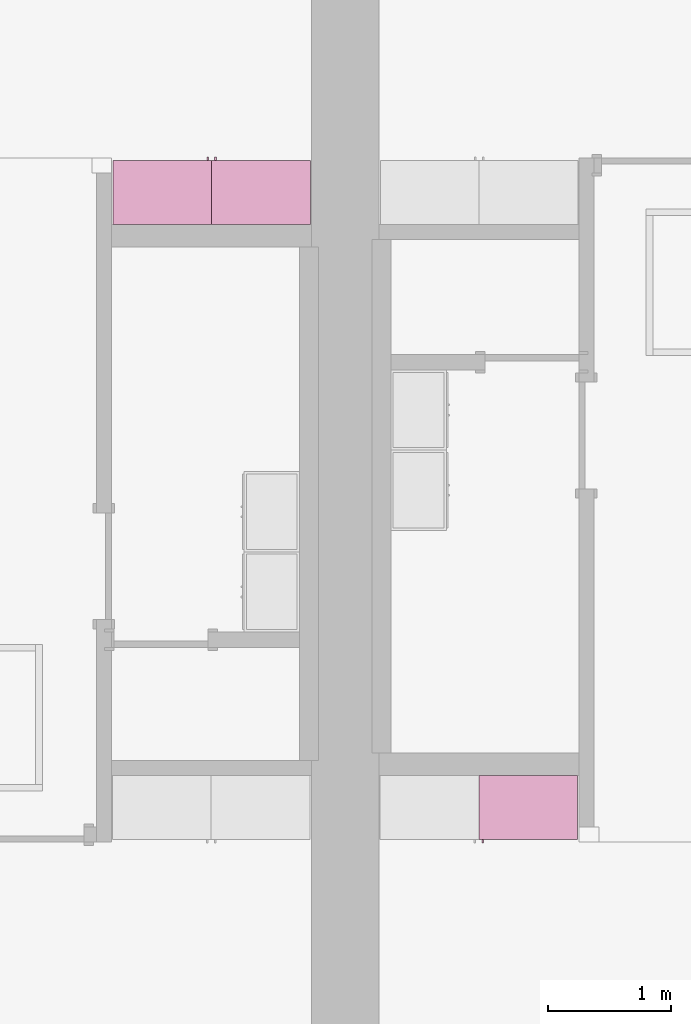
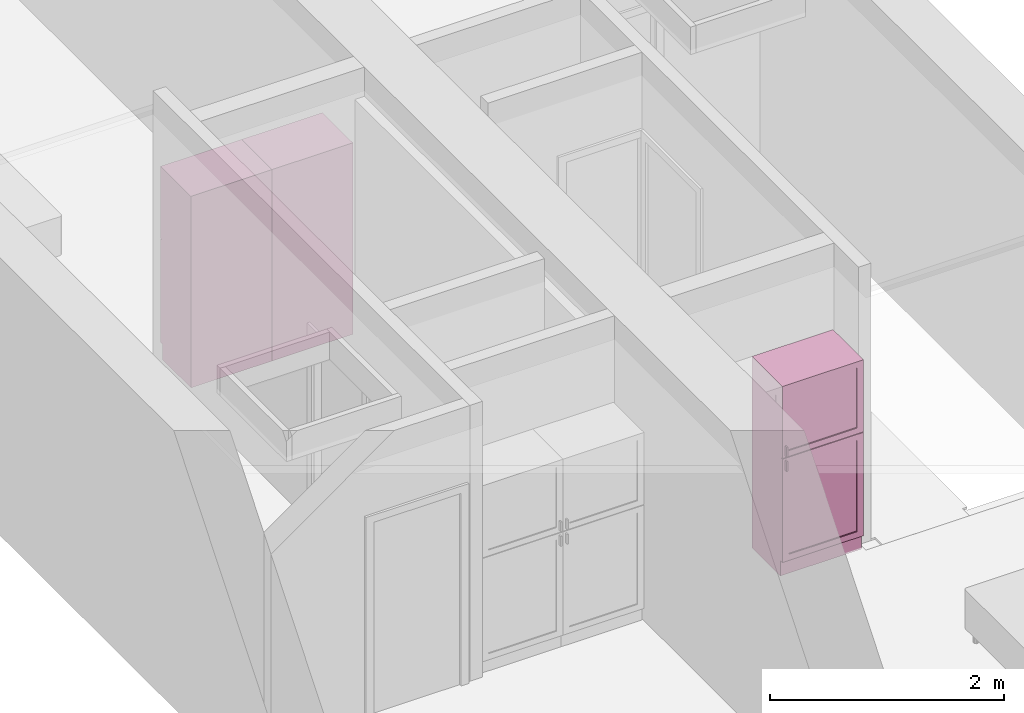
# One storey, part 15 of 16: 3 furnishings, 3 openings.
"""IFC4 building model written with IfcOpenShell, lengths in metres."""

from ifc_helpers import new_model, entity, si_unit, converted_unit, frame, origin, origin_2d_with_axis, place, context, project, spatial, rectangle, extrude, face_set, surface_model, source, transform, mapped, type_object, type_shapes, element, save


model = new_model("IFC4")

# Units and contexts
model_context = context("Model", 3, precision=1e-09, world=origin())
plan_context = context("Plan", 3, precision=1e-09, world=origin())
ifc_project = project(units=[si_unit("LENGTHUNIT", "METRE"), si_unit("AREAUNIT", "SQUARE_METRE"), si_unit("VOLUMEUNIT", "CUBIC_METRE"), converted_unit("PLANEANGLEUNIT", "DEGREE", entity("IfcRatioMeasure", 0.01745329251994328), si_unit("PLANEANGLEUNIT", "RADIAN"), dimensions=[0, 0, 0, 0, 0, 0, 0]), si_unit("TIMEUNIT", "SECOND")], contexts=[model_context, plan_context])

# Site, building, storey, space
site_placement = place(None, origin())
site = spatial("IfcSite", under=ifc_project, at=site_placement, Name="Default", CompositionType="ELEMENT")
building_placement = place(site_placement, origin())
building = spatial("IfcBuilding", under=site, at=building_placement, CompositionType="ELEMENT")
storey_placement = place(building_placement, frame((0.0, 0.0, 3.100000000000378)))
storey = spatial("IfcBuildingStorey", under=building, at=storey_placement, Name="Level 2", CompositionType="ELEMENT", Elevation=3.100000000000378)
space_1_placement = place(storey_placement, origin())
space_1 = spatial("IfcSpace", under=storey, at=space_1_placement, Name="A203", CompositionType="ELEMENT", PredefinedType="SPACE")

# Furnishing, opening
furniture_type_1 = type_object("IfcFurnitureType", Name="800 mm", AssemblyPlace="NOTDEFINED")
shared_shape_1 = source(origin(), model_context, "Body", "SurfaceModel", [
    surface_model("IfcFaceBasedSurfaceModel", [(0.7999999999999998, 0.5009500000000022, 0.1615874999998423), (0.7999999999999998, 0.5009500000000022, 2.0), (0.0, 0.5009499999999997, 2.0), (0.0, 0.5009499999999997, 0.1615874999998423), (0.7809499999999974, 0.5009500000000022, 1.980949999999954), (0.7809499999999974, 0.5009500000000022, 0.1806374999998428), (0.01904999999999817, 0.5009499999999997, 0.1806374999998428), (0.01904999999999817, 0.5009499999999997, 1.980949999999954), (0.0, 0.0, 2.0), (0.0, 0.0, 0.0), (0.8000000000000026, 0.0, 0.0), (0.8000000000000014, 0.0, 2.0), (0.780949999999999, 0.0, 1.980949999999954), (0.780949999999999, 0.0, 0.1806374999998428), (0.0190499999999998, 0.0, 0.1806374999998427), (0.0190499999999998, 0.0, 1.980949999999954), (0.8000000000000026, 0.4850000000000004, 0.0), (0.7999999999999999, 0.4850000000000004, 0.1615874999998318), (0.0, 0.4850000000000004, 0.0), (0.0, 0.4850000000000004, 0.1615874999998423), (0.7745999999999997, 0.5454000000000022, 1.371548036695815), (0.7620677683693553, 0.5454000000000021, 1.371548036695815), (0.7620677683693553, 0.5454000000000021, 1.269948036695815), (0.7745999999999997, 0.5454000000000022, 1.269948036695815), (0.7745999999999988, 0.5454000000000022, 1.219148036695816), (0.7620677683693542, 0.5454000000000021, 1.219148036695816), (0.7620677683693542, 0.5454000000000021, 1.117548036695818), (0.7745999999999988, 0.5454000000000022, 1.117548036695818), (0.7745999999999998, 0.5200000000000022, 1.371548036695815), (0.7620677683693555, 0.5200000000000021, 1.371548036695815), (0.7620677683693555, 0.5200000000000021, 1.269948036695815), (0.7745999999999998, 0.5200000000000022, 1.269948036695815), (0.7745999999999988, 0.5200000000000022, 1.219148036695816), (0.7620677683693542, 0.5200000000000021, 1.219148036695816), (0.7620677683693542, 0.5200000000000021, 1.117548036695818), (0.7745999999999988, 0.5200000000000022, 1.117548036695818), (0.7364999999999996, 0.5073000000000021, 1.936499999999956), (0.06350000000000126, 0.5072999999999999, 1.936499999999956), (0.06350000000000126, 0.5072999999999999, 1.308048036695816), (0.7364999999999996, 0.5073000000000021, 1.308048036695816), (0.736499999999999, 0.5073000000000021, 1.181048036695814), (0.06350000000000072, 0.5072999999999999, 1.181048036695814), (0.06350000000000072, 0.5072999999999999, 0.2250874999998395), (0.736499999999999, 0.5073000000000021, 0.2250874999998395), (0.7364999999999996, 0.5009500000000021, 1.936499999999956), (0.06350000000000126, 0.5009499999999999, 1.936499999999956), (0.06350000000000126, 0.5009499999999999, 1.308048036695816), (0.7364999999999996, 0.5009500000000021, 1.308048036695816), (0.736499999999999, 0.5009500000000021, 1.181048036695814), (0.06350000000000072, 0.5009499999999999, 1.181048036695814), (0.06350000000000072, 0.5009499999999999, 0.2250874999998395), (0.736499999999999, 0.5009500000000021, 0.2250874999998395), (0.8, 0.5200000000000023, 2.0), (0.0, 0.5199999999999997, 2.0), (0.0, 0.5199999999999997, 1.247723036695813), (0.8, 0.5200000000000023, 1.247723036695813), (0.7364999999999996, 0.5200000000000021, 1.936499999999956), (0.7364999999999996, 0.5200000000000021, 1.308048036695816), (0.0635000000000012, 0.5199999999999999, 1.308048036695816), (0.0635000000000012, 0.5199999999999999, 1.936499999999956), (0.7999999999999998, 0.5200000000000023, 0.1615874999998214), (0.7999999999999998, 0.5200000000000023, 1.241373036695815), (0.0, 0.5199999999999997, 1.241373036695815), (0.0, 0.5199999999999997, 0.1615874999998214), (0.736499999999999, 0.5200000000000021, 1.181048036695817), (0.736499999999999, 0.5200000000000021, 0.2250874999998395), (0.06350000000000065, 0.5199999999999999, 0.2250874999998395), (0.06350000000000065, 0.5199999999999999, 1.181048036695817), (0.8000000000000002, 0.5009500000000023, 2.0), (0.0, 0.5009499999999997, 2.0), (0.0, 0.5009499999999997, 1.247723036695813), (0.8, 0.5009500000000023, 1.247723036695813), (0.7364999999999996, 0.5009500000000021, 1.936499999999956), (0.7364999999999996, 0.5009500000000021, 1.308048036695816), (0.06350000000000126, 0.5009499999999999, 1.308048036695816), (0.06350000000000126, 0.5009499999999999, 1.936499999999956), (0.7999999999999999, 0.5009500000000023, 0.1615874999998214), (0.7999999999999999, 0.5009500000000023, 1.241373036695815), (0.0, 0.5009499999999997, 1.241373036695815), (0.0, 0.5009499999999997, 0.1615874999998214), (0.736499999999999, 0.5009500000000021, 1.181048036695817), (0.736499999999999, 0.5009500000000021, 0.2250874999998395), (0.06350000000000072, 0.5009499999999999, 0.2250874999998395), (0.06350000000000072, 0.5009499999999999, 1.181048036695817), (0.7809499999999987, 0.01905000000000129, 1.980949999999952), (0.0190499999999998, 0.01905000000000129, 1.980949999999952), (0.0190499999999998, 0.01905000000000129, 0.1806374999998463), (0.7809499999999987, 0.01905000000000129, 0.1806374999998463), (0.7809499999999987, 0.0, 1.980949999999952), (0.0190499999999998, 0.0, 1.980949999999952), (0.01904999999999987, 0.0, 0.1806374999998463), (0.7809499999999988, 0.0, 0.1806374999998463)], [face_set([[[0, 1, 2, 3], [4, 5, 6, 7]], [[8, 9, 10, 11], [12, 13, 14, 15]], [[1, 11, 10, 16, 17, 0]], [[2, 1, 11, 8]], [[3, 2, 8, 9, 18, 19]], [[0, 17, 19, 3]], [[5, 4, 12, 13]], [[6, 5, 13, 14]], [[7, 6, 14, 15]], [[4, 12, 15, 7]], [[10, 9, 18, 16]], [[18, 16, 17, 19]]]), face_set([[[20, 21, 22, 23]], [[24, 25, 26, 27]], [[28, 29, 30, 31]], [[32, 33, 34, 35]], [[21, 20, 28, 29]], [[22, 30, 29, 21]], [[23, 31, 30, 22]], [[20, 23, 31, 28]], [[25, 24, 32, 33]], [[26, 34, 33, 25]], [[27, 35, 34, 26]], [[24, 27, 35, 32]]]), face_set([[[36, 37, 38, 39]], [[40, 41, 42, 43]], [[44, 45, 46, 47]], [[48, 49, 50, 51]], [[37, 36, 44, 45]], [[38, 37, 45, 46]], [[39, 47, 46, 38]], [[36, 44, 47, 39]], [[41, 40, 48, 49]], [[42, 41, 49, 50]], [[43, 51, 50, 42]], [[40, 48, 51, 43]]]), face_set([[[52, 53, 54, 55], [56, 57, 58, 59]], [[60, 61, 62, 63], [64, 65, 66, 67]], [[68, 69, 70, 71], [72, 73, 74, 75]], [[76, 77, 78, 79], [80, 81, 82, 83]], [[53, 52, 68, 69]], [[54, 70, 69, 53]], [[55, 71, 70, 54]], [[52, 68, 71, 55]], [[61, 77, 76, 60]], [[62, 61, 77, 78]], [[63, 79, 78, 62]], [[60, 76, 79, 63]], [[57, 56, 72, 73]], [[58, 57, 73, 74]], [[59, 75, 74, 58]], [[56, 72, 75, 59]], [[65, 64, 80, 81]], [[66, 65, 81, 82]], [[67, 83, 82, 66]], [[64, 80, 83, 67]]]), face_set([[[84, 85, 86, 87]], [[88, 89, 90, 91]], [[85, 84, 88, 89]], [[86, 90, 89, 85]], [[87, 91, 90, 86]], [[84, 88, 91, 87]]])]),
])
type_shapes(furniture_type_1, [shared_shape_1])
furnishing_1_placement = place(space_1_placement, frame((6.282999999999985, -11.13400000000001, 0.0), z_axis=(0.0, 0.0, 1.0), x_axis=(-1.0, 0.0, 0.0)))
furnishing_1 = element("IfcFurnishingElement", 1, at=furnishing_1_placement, inside=space_1, type_object=furniture_type_1, Name="M_Tall Cabinet-Single Door(2):800 mm:800 mm", ObjectType="800 mm", context=model_context, shape_type="MappedRepresentation", body=[
    mapped(shared_shape_1, transform((0.0, 0.0, 0.0), scale=1.0)),
])
opening_1_placement = place(space_1_placement, frame((6.282999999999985, -11.13400000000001, 0.0), z_axis=(0.0, 0.0, 1.0), x_axis=(-1.0, 0.0, 0.0)))
element("IfcOpeningElement", 2, at=opening_1_placement, cuts=furnishing_1, Name="M_Tall Cabinet-Single Door(2):800 mm:800 mm:1", ObjectType="Opening", context=model_context, shape_type="SweptSolid", body=[
    extrude(rectangle(XDim=1.800312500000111, YDim=0.7618999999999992, at=origin_2d_with_axis()), frame((-0.01873770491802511, 0.0, -2.01920625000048), z_axis=(0.0, -1.0, 0.0), x_axis=(0.0, 0.0, -1.0)), (0.0, 0.0, 1.0), 0.5009499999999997),
])

# Space
space_2_placement = place(storey_placement, origin())
space_2 = spatial("IfcSpace", under=storey, at=space_2_placement, Name="B203", CompositionType="ELEMENT", PredefinedType="SPACE")

# Furnishing, opening
furniture_type_2 = type_object("IfcFurnitureType", Name="800 mm", AssemblyPlace="NOTDEFINED")
shared_shape_2 = source(origin(), model_context, "Body", "SurfaceModel", [
    surface_model("IfcFaceBasedSurfaceModel", [(0.7999999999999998, 0.04444999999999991, 0.1615874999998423), (0.0, 0.04445000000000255, 0.1615874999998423), (0.0, 0.04445000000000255, 2.0), (0.7999999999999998, 0.04444999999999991, 2.0), (0.7809499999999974, 0.04444999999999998, 1.980949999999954), (0.01904999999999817, 0.04445000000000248, 1.980949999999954), (0.01904999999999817, 0.04445000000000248, 0.1806374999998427), (0.7809499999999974, 0.04444999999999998, 0.1806374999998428), (0.0, 0.5454000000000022, 2.0), (0.8000000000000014, 0.5453999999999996, 2.0), (0.8000000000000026, 0.5453999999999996, 0.0), (0.0, 0.5454000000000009, 0.0), (0.780949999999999, 0.5453999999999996, 1.980949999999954), (0.0190499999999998, 0.5454000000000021, 1.980949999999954), (0.0190499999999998, 0.5454000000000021, 0.1806374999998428), (0.780949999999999, 0.5453999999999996, 0.1806374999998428), (0.7999999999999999, 0.06040000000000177, 0.1615874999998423), (0.7999999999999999, 0.06040000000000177, 0.0), (0.0, 0.06040000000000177, 0.0), (0.0, 0.06040000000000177, 0.1615874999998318), (0.7745999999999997, 0.0, 1.371548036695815), (0.7745999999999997, 0.0, 1.269948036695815), (0.7620677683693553, 0.0, 1.269948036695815), (0.7620677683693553, 0.0, 1.371548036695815), (0.7745999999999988, 0.0, 1.219148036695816), (0.7745999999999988, 0.0, 1.117548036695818), (0.7620677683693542, 0.0, 1.117548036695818), (0.7620677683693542, 0.0, 1.219148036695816), (0.7745999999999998, 0.02539999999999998, 1.371548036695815), (0.7745999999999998, 0.02539999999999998, 1.269948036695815), (0.7620677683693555, 0.02540000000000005, 1.269948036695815), (0.7620677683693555, 0.02540000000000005, 1.371548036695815), (0.7745999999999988, 0.02539999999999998, 1.219148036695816), (0.7745999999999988, 0.02539999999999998, 1.117548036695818), (0.7620677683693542, 0.02540000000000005, 1.117548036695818), (0.7620677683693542, 0.02540000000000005, 1.219148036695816), (0.7364999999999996, 0.03810000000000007, 1.936499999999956), (0.7364999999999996, 0.03810000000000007, 1.308048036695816), (0.06350000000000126, 0.03810000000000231, 1.308048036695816), (0.06350000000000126, 0.03810000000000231, 1.936499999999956), (0.736499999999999, 0.03810000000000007, 1.181048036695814), (0.736499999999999, 0.03810000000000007, 0.2250874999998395), (0.06350000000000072, 0.03810000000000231, 0.2250874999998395), (0.06350000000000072, 0.03810000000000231, 1.181048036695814), (0.7364999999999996, 0.04445000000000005, 1.936499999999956), (0.7364999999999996, 0.04445000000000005, 1.308048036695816), (0.06350000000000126, 0.04445000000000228, 1.308048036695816), (0.06350000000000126, 0.04445000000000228, 1.936499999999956), (0.736499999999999, 0.04445000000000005, 1.181048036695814), (0.736499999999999, 0.04445000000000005, 0.2250874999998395), (0.06350000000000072, 0.04445000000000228, 0.2250874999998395), (0.06350000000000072, 0.04445000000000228, 1.181048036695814), (0.8, 0.02539999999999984, 2.0), (0.8, 0.02539999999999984, 1.247723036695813), (0.0, 0.02540000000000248, 1.247723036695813), (0.0, 0.02540000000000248, 2.0), (0.7364999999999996, 0.02540000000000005, 1.936499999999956), (0.0635000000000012, 0.02540000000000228, 1.936499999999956), (0.0635000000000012, 0.02540000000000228, 1.308048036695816), (0.7364999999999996, 0.02540000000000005, 1.308048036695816), (0.7999999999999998, 0.02539999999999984, 0.1615874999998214), (0.0, 0.02540000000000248, 0.1615874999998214), (0.0, 0.02540000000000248, 1.241373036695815), (0.7999999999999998, 0.02539999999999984, 1.241373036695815), (0.736499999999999, 0.02540000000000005, 1.181048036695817), (0.06350000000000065, 0.02540000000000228, 1.181048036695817), (0.06350000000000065, 0.02540000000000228, 0.2250874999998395), (0.736499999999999, 0.02540000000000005, 0.2250874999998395), (0.8000000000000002, 0.04444999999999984, 2.0), (0.8000000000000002, 0.04444999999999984, 1.247723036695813), (0.0, 0.04445000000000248, 1.247723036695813), (0.0, 0.04445000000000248, 2.0), (0.7364999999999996, 0.04445000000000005, 1.936499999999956), (0.06350000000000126, 0.04445000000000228, 1.936499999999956), (0.06350000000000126, 0.04445000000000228, 1.308048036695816), (0.7364999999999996, 0.04445000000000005, 1.308048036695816), (0.7999999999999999, 0.04444999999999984, 0.1615874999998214), (0.0, 0.04445000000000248, 0.1615874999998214), (0.0, 0.04445000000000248, 1.241373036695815), (0.7999999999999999, 0.04444999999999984, 1.241373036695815), (0.736499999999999, 0.04445000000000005, 1.181048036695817), (0.06350000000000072, 0.04445000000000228, 1.181048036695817), (0.06350000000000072, 0.04445000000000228, 0.2250874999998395), (0.736499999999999, 0.04445000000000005, 0.2250874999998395), (0.7809499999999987, 0.5263500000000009, 1.980949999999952), (0.7809499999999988, 0.5263500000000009, 0.1806374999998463), (0.01904999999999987, 0.5263500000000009, 0.1806374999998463), (0.0190499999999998, 0.5263500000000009, 1.980949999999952), (0.7809499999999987, 0.5454000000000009, 1.980949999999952), (0.7809499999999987, 0.5454000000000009, 0.1806374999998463), (0.0190499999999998, 0.5454000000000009, 0.1806374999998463), (0.0190499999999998, 0.5454000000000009, 1.980949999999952)], [face_set([[[0, 1, 2, 3], [4, 5, 6, 7]], [[8, 9, 10, 11], [12, 13, 14, 15]], [[3, 0, 16, 17, 10, 9]], [[2, 8, 9, 3]], [[1, 2, 8, 11, 18, 19]], [[0, 1, 19, 16]], [[7, 15, 12, 4]], [[6, 14, 15, 7]], [[5, 13, 14, 6]], [[4, 5, 13, 12]], [[10, 17, 18, 11]], [[18, 19, 16, 17]]]), face_set([[[20, 21, 22, 23]], [[24, 25, 26, 27]], [[28, 29, 30, 31]], [[32, 33, 34, 35]], [[23, 31, 28, 20]], [[22, 23, 31, 30]], [[21, 22, 30, 29]], [[20, 28, 29, 21]], [[27, 35, 32, 24]], [[26, 27, 35, 34]], [[25, 26, 34, 33]], [[24, 32, 33, 25]]]), face_set([[[36, 37, 38, 39]], [[40, 41, 42, 43]], [[44, 45, 46, 47]], [[48, 49, 50, 51]], [[39, 47, 44, 36]], [[38, 46, 47, 39]], [[37, 38, 46, 45]], [[36, 37, 45, 44]], [[43, 51, 48, 40]], [[42, 50, 51, 43]], [[41, 42, 50, 49]], [[40, 41, 49, 48]]]), face_set([[[52, 53, 54, 55], [56, 57, 58, 59]], [[60, 61, 62, 63], [64, 65, 66, 67]], [[68, 69, 70, 71], [72, 73, 74, 75]], [[76, 77, 78, 79], [80, 81, 82, 83]], [[55, 71, 68, 52]], [[54, 55, 71, 70]], [[53, 54, 70, 69]], [[52, 53, 69, 68]], [[63, 60, 76, 79]], [[62, 78, 79, 63]], [[61, 62, 78, 77]], [[60, 61, 77, 76]], [[59, 75, 72, 56]], [[58, 74, 75, 59]], [[57, 58, 74, 73]], [[56, 57, 73, 72]], [[67, 83, 80, 64]], [[66, 82, 83, 67]], [[65, 66, 82, 81]], [[64, 65, 81, 80]]]), face_set([[[84, 85, 86, 87]], [[88, 89, 90, 91]], [[87, 91, 88, 84]], [[86, 87, 91, 90]], [[85, 86, 90, 89]], [[84, 85, 89, 88]]])]),
])
type_shapes(furniture_type_2, [shared_shape_2])
furnishing_2_placement = place(space_2_placement, frame((4.116999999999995, -6.120600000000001, 0.0), z_axis=(0.0, 0.0, 1.0), x_axis=(-1.0, 0.0, 0.0)))
furnishing_2 = element("IfcFurnishingElement", 3, at=furnishing_2_placement, inside=space_2, type_object=furniture_type_2, Name="M_Tall Cabinet-Single Door(2):800 mm:800 mm", ObjectType="800 mm", context=model_context, shape_type="MappedRepresentation", body=[
    mapped(shared_shape_2, transform((0.0, 0.0, 0.0), scale=1.0)),
])
opening_2_placement = place(space_2_placement, frame((4.116999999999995, -6.120600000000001, 0.0), z_axis=(0.0, 0.0, 1.0), x_axis=(-1.0, 0.0, 0.0)))
element("IfcOpeningElement", 4, at=opening_2_placement, cuts=furnishing_2, Name="M_Tall Cabinet-Single Door(2):800 mm:800 mm:1", ObjectType="Opening", context=model_context, shape_type="SweptSolid", body=[
    extrude(rectangle(XDim=1.800312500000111, YDim=0.7618999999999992, at=origin_2d_with_axis()), frame((-0.01873770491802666, 0.5009499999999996, -2.01920625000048), z_axis=(0.0, -1.0, 0.0), x_axis=(0.0, 0.0, -1.0)), (0.0, 0.0, 1.0), 0.5009499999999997),
])

furniture_type_3 = type_object("IfcFurnitureType", Name="800 mm", AssemblyPlace="NOTDEFINED")
shared_shape_3 = source(origin(), model_context, "Body", "SurfaceModel", [
    surface_model("IfcFaceBasedSurfaceModel", [(0.7999999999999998, 0.5009500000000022, 0.1615874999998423), (0.7999999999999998, 0.5009500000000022, 2.0), (0.0, 0.5009499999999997, 2.0), (0.0, 0.5009499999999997, 0.1615874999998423), (0.7809499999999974, 0.5009500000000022, 1.980949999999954), (0.7809499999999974, 0.5009500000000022, 0.1806374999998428), (0.01904999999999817, 0.5009499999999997, 0.1806374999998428), (0.01904999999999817, 0.5009499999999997, 1.980949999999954), (0.0, 0.0, 2.0), (0.0, 0.0, 0.0), (0.8000000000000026, 0.0, 0.0), (0.8000000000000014, 0.0, 2.0), (0.780949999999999, 0.0, 1.980949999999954), (0.780949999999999, 0.0, 0.1806374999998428), (0.0190499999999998, 0.0, 0.1806374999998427), (0.0190499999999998, 0.0, 1.980949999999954), (0.8000000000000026, 0.4850000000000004, 0.0), (0.7999999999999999, 0.4850000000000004, 0.1615874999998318), (0.0, 0.4850000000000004, 0.0), (0.0, 0.4850000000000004, 0.1615874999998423), (0.7745999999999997, 0.5454000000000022, 1.371548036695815), (0.7620677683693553, 0.5454000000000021, 1.371548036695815), (0.7620677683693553, 0.5454000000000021, 1.269948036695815), (0.7745999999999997, 0.5454000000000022, 1.269948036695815), (0.7745999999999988, 0.5454000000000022, 1.219148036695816), (0.7620677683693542, 0.5454000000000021, 1.219148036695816), (0.7620677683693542, 0.5454000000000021, 1.117548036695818), (0.7745999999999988, 0.5454000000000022, 1.117548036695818), (0.7745999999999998, 0.5200000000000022, 1.371548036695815), (0.7620677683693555, 0.5200000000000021, 1.371548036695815), (0.7620677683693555, 0.5200000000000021, 1.269948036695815), (0.7745999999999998, 0.5200000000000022, 1.269948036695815), (0.7745999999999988, 0.5200000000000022, 1.219148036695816), (0.7620677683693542, 0.5200000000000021, 1.219148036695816), (0.7620677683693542, 0.5200000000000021, 1.117548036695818), (0.7745999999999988, 0.5200000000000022, 1.117548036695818), (0.7364999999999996, 0.5073000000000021, 1.936499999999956), (0.06350000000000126, 0.5072999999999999, 1.936499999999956), (0.06350000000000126, 0.5072999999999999, 1.308048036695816), (0.7364999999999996, 0.5073000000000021, 1.308048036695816), (0.736499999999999, 0.5073000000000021, 1.181048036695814), (0.06350000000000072, 0.5072999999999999, 1.181048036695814), (0.06350000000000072, 0.5072999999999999, 0.2250874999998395), (0.736499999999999, 0.5073000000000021, 0.2250874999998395), (0.7364999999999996, 0.5009500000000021, 1.936499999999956), (0.06350000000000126, 0.5009499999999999, 1.936499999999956), (0.06350000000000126, 0.5009499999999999, 1.308048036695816), (0.7364999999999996, 0.5009500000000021, 1.308048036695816), (0.736499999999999, 0.5009500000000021, 1.181048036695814), (0.06350000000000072, 0.5009499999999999, 1.181048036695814), (0.06350000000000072, 0.5009499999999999, 0.2250874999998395), (0.736499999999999, 0.5009500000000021, 0.2250874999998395), (0.8, 0.5200000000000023, 2.0), (0.0, 0.5199999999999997, 2.0), (0.0, 0.5199999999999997, 1.247723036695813), (0.8, 0.5200000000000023, 1.247723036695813), (0.7364999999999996, 0.5200000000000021, 1.936499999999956), (0.7364999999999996, 0.5200000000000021, 1.308048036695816), (0.0635000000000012, 0.5199999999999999, 1.308048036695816), (0.0635000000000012, 0.5199999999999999, 1.936499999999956), (0.7999999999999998, 0.5200000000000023, 0.1615874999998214), (0.7999999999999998, 0.5200000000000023, 1.241373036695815), (0.0, 0.5199999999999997, 1.241373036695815), (0.0, 0.5199999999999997, 0.1615874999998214), (0.736499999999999, 0.5200000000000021, 1.181048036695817), (0.736499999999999, 0.5200000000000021, 0.2250874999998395), (0.06350000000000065, 0.5199999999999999, 0.2250874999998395), (0.06350000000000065, 0.5199999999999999, 1.181048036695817), (0.8000000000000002, 0.5009500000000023, 2.0), (0.0, 0.5009499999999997, 2.0), (0.0, 0.5009499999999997, 1.247723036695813), (0.8, 0.5009500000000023, 1.247723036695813), (0.7364999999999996, 0.5009500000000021, 1.936499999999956), (0.7364999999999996, 0.5009500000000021, 1.308048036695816), (0.06350000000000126, 0.5009499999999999, 1.308048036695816), (0.06350000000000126, 0.5009499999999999, 1.936499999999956), (0.7999999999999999, 0.5009500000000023, 0.1615874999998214), (0.7999999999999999, 0.5009500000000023, 1.241373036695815), (0.0, 0.5009499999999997, 1.241373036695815), (0.0, 0.5009499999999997, 0.1615874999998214), (0.736499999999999, 0.5009500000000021, 1.181048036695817), (0.736499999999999, 0.5009500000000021, 0.2250874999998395), (0.06350000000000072, 0.5009499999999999, 0.2250874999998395), (0.06350000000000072, 0.5009499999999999, 1.181048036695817), (0.7809499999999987, 0.01905000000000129, 1.980949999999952), (0.0190499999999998, 0.01905000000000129, 1.980949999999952), (0.0190499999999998, 0.01905000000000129, 0.1806374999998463), (0.7809499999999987, 0.01905000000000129, 0.1806374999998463), (0.7809499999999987, 0.0, 1.980949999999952), (0.0190499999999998, 0.0, 1.980949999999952), (0.01904999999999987, 0.0, 0.1806374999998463), (0.7809499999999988, 0.0, 0.1806374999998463)], [face_set([[[0, 1, 2, 3], [4, 5, 6, 7]], [[8, 9, 10, 11], [12, 13, 14, 15]], [[1, 11, 10, 16, 17, 0]], [[2, 1, 11, 8]], [[3, 2, 8, 9, 18, 19]], [[0, 17, 19, 3]], [[5, 4, 12, 13]], [[6, 5, 13, 14]], [[7, 6, 14, 15]], [[4, 12, 15, 7]], [[10, 9, 18, 16]], [[18, 16, 17, 19]]]), face_set([[[20, 21, 22, 23]], [[24, 25, 26, 27]], [[28, 29, 30, 31]], [[32, 33, 34, 35]], [[21, 20, 28, 29]], [[22, 30, 29, 21]], [[23, 31, 30, 22]], [[20, 23, 31, 28]], [[25, 24, 32, 33]], [[26, 34, 33, 25]], [[27, 35, 34, 26]], [[24, 27, 35, 32]]]), face_set([[[36, 37, 38, 39]], [[40, 41, 42, 43]], [[44, 45, 46, 47]], [[48, 49, 50, 51]], [[37, 36, 44, 45]], [[38, 37, 45, 46]], [[39, 47, 46, 38]], [[36, 44, 47, 39]], [[41, 40, 48, 49]], [[42, 41, 49, 50]], [[43, 51, 50, 42]], [[40, 48, 51, 43]]]), face_set([[[52, 53, 54, 55], [56, 57, 58, 59]], [[60, 61, 62, 63], [64, 65, 66, 67]], [[68, 69, 70, 71], [72, 73, 74, 75]], [[76, 77, 78, 79], [80, 81, 82, 83]], [[53, 52, 68, 69]], [[54, 70, 69, 53]], [[55, 71, 70, 54]], [[52, 68, 71, 55]], [[61, 77, 76, 60]], [[62, 61, 77, 78]], [[63, 79, 78, 62]], [[60, 76, 79, 63]], [[57, 56, 72, 73]], [[58, 57, 73, 74]], [[59, 75, 74, 58]], [[56, 72, 75, 59]], [[65, 64, 80, 81]], [[66, 65, 81, 82]], [[67, 83, 82, 66]], [[64, 80, 83, 67]]]), face_set([[[84, 85, 86, 87]], [[88, 89, 90, 91]], [[85, 84, 88, 89]], [[86, 90, 89, 85]], [[87, 91, 90, 86]], [[84, 88, 91, 87]]])]),
])
type_shapes(furniture_type_3, [shared_shape_3])
furnishing_3_placement = place(space_2_placement, frame((2.51699999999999, -6.665999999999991, 0.0)))
furnishing_3 = element("IfcFurnishingElement", 5, at=furnishing_3_placement, inside=space_2, type_object=furniture_type_3, Name="M_Tall Cabinet-Single Door(2):800 mm:800 mm", ObjectType="800 mm", context=model_context, shape_type="MappedRepresentation", body=[
    mapped(shared_shape_3, transform((0.0, 0.0, 0.0), scale=1.0)),
])
opening_3_placement = place(space_2_placement, frame((2.51699999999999, -6.665999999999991, 0.0)))
element("IfcOpeningElement", 6, at=opening_3_placement, cuts=furnishing_3, Name="M_Tall Cabinet-Single Door(2):800 mm:800 mm:1", ObjectType="Opening", context=model_context, shape_type="SweptSolid", body=[
    extrude(rectangle(XDim=1.800312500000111, YDim=0.7618999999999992, at=origin_2d_with_axis()), frame((0.01873770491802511, 0.0, -2.01920625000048), z_axis=(0.0, 1.0, 0.0), x_axis=(0.0, 0.0, -1.0)), (0.0, 0.0, 1.0), 0.5009499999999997),
])

save(model, "model.ifc")
